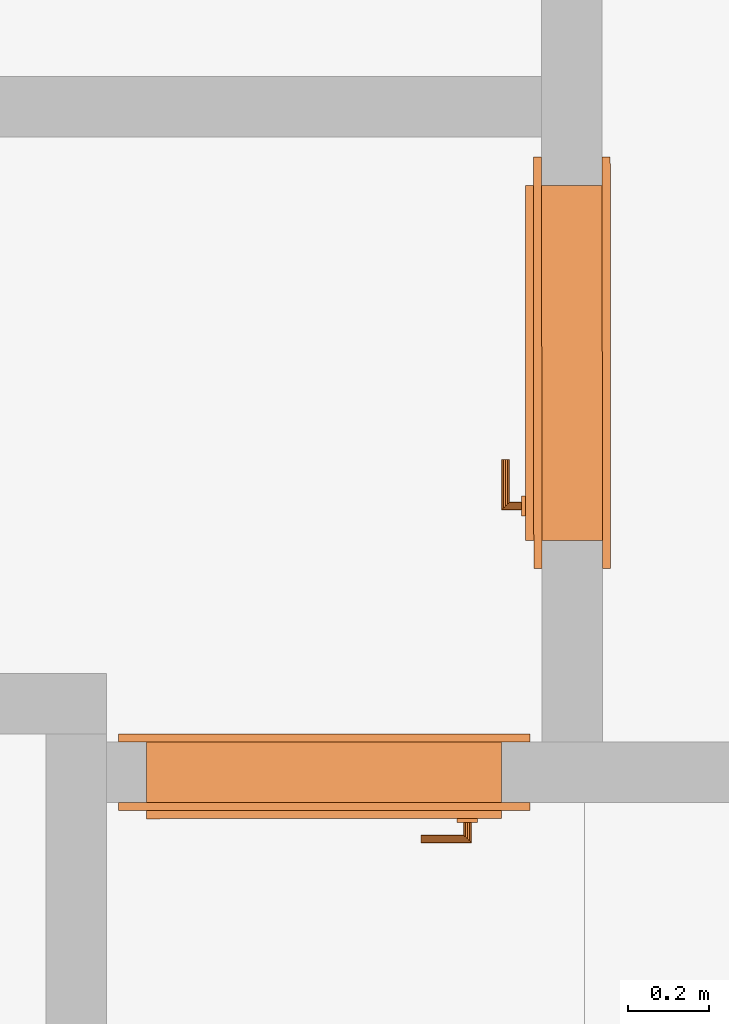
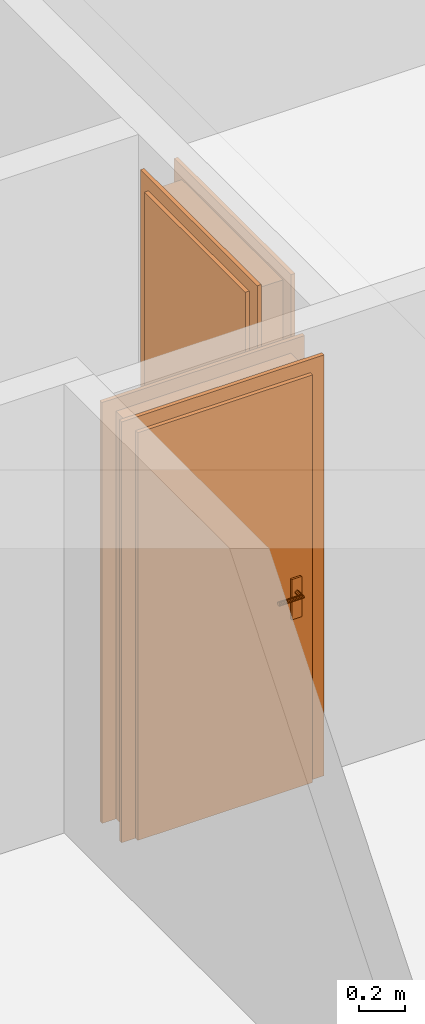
# One storey, part 7 of 9: 2 proxies.
"""IFC2X3 building model written with IfcOpenShell, lengths in metres."""

from ifc_helpers import new_model, entity, si_unit, converted_unit, derived_unit, direction, frame, origin, origin_with_axes, place, context, subcontext, project, spatial, faceted_brep, source, transform, mapped, element, save


model = new_model("IFC2X3")

# Units and contexts
model_context = context("Model", 3, precision=1e-05, world=origin(), true_north=direction((0.772621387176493, -0.634867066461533)))
body_context = subcontext(model_context, "Body", "Model", "MODEL_VIEW")
ifc_project = project(units=[si_unit("LENGTHUNIT", "METRE"), si_unit("AREAUNIT", "SQUARE_METRE"), si_unit("VOLUMEUNIT", "CUBIC_METRE"), si_unit("MASSUNIT", "GRAM", prefix="KILO"), converted_unit("PLANEANGLEUNIT", "DEGREE", entity("IfcPlaneAngleMeasure", 0.0174532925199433), si_unit("PLANEANGLEUNIT", "RADIAN"), dimensions=[0, 0, 0, 0, 0, 0, 0]), derived_unit("THERMALTRANSMITTANCEUNIT", [(si_unit("POWERUNIT", "WATT"), 1), (si_unit("THERMODYNAMICTEMPERATUREUNIT", "KELVIN"), -1), (si_unit("LENGTHUNIT", "METRE"), -2)]), derived_unit("VOLUMETRICFLOWRATEUNIT", [(si_unit("LENGTHUNIT", "METRE"), 3), (converted_unit("TIMEUNIT", "hour", entity("IfcTimeMeasure", 3600.0), si_unit("TIMEUNIT", "SECOND"), dimensions=[0, 0, 1, 0, 0, 0, 0]), -1), (si_unit("LENGTHUNIT", "METRE"), -1)])], contexts=[model_context])

# Site, building, storey
site_placement = place(None, origin())
site = spatial("IfcSite", under=ifc_project, at=site_placement, Name="Modelle auf dem Nullpunkt", CompositionType="ELEMENT")
building_placement = place(site_placement, origin())
building = spatial("IfcBuilding", under=site, at=building_placement, Name="I", CompositionType="ELEMENT")
storey_placement = place(building_placement, origin())
storey = spatial("IfcBuildingStorey", under=building, at=storey_placement, Name="UG", CompositionType="ELEMENT", Elevation=0.0)

# Proxies
shared_shape_1 = source(origin_with_axes(), body_context, "Body", "Brep", [
    faceted_brep([(0.070000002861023, 0.190000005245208, 2.17), (0.070000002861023, 0.190000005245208, 0.0), (0.0900000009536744, 0.190000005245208, 0.0), (0.0900000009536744, 0.190000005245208, 2.17), (0.070000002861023, 0.0, 0.0), (0.070000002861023, 0.0, 2.17), (0.0900000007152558, 0.0, 2.17), (0.0900000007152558, 0.0, 0.0)], [[[0, 1, 2, 3]], [[4, 5, 6, 7]], [[1, 0, 5, 4]], [[2, 1, 4, 7]], [[3, 2, 7, 6]], [[0, 3, 6, 5]]], orient=[[False], [False], [False], [False], [False], [False]]),
    faceted_brep([(0.070000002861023, 0.190000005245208, 2.24), (0.0, 0.190000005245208, 2.24), (0.0, 0.190000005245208, 0.0), (0.070000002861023, 0.190000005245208, 0.0), (0.070000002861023, 0.170000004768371, 0.0), (0.0, 0.170000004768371, 0.0), (0.0, 0.170000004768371, 2.24), (0.070000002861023, 0.170000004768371, 2.24)], [[[0, 1, 2, 3]], [[4, 5, 6, 7]], [[3, 4, 7, 0]], [[2, 5, 4, 3]], [[1, 6, 5, 2]], [[0, 7, 6, 1]]], orient=[[False], [False], [False], [False], [False], [False]]),
    faceted_brep([(0.070000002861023, 0.0200000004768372, 2.24), (0.0, 0.0200000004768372, 2.24), (0.0, 0.0200000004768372, 0.0), (0.070000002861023, 0.0200000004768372, 0.0), (0.070000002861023, 0.0, 0.0), (0.0, 0.0, 0.0), (0.0, 0.0, 2.24), (0.070000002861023, 0.0, 2.24)], [[[0, 1, 2, 3]], [[4, 5, 6, 7]], [[3, 4, 7, 0]], [[2, 5, 4, 3]], [[1, 6, 5, 2]], [[0, 7, 6, 1]]], orient=[[False], [False], [False], [False], [False], [False]]),
    faceted_brep([(0.930000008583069, 0.190000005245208, 2.17), (0.930000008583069, 0.190000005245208, 0.0), (0.950000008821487, 0.190000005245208, 0.0), (0.950000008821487, 0.190000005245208, 2.17), (0.930000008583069, 0.0, 0.0), (0.930000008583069, 0.0, 2.17), (0.950000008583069, 0.0, 2.17), (0.950000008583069, 0.0, 0.0)], [[[0, 1, 2, 3]], [[4, 5, 6, 7]], [[1, 0, 5, 4]], [[2, 1, 4, 7]], [[3, 2, 7, 6]], [[0, 3, 6, 5]]], orient=[[False], [False], [False], [False], [False], [False]]),
    faceted_brep([(0.950000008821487, 0.190000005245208, 2.24), (0.950000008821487, 0.190000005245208, 0.0), (1.02000000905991, 0.190000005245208, 0.0), (1.02000000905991, 0.190000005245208, 2.24), (0.950000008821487, 0.170000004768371, 0.0), (0.950000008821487, 0.170000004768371, 2.24), (1.02000000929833, 0.170000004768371, 2.24), (1.02000000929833, 0.170000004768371, 0.0)], [[[0, 1, 2, 3]], [[4, 5, 6, 7]], [[1, 0, 5, 4]], [[2, 1, 4, 7]], [[3, 2, 7, 6]], [[0, 3, 6, 5]]], orient=[[False], [False], [False], [False], [False], [False]]),
    faceted_brep([(0.950000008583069, 0.0200000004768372, 2.24), (0.950000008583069, 0.0200000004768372, 0.0), (1.02000000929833, 0.0200000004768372, 0.0), (1.02000000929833, 0.0200000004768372, 2.24), (0.950000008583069, 0.0, 0.0), (0.950000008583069, 0.0, 2.24), (1.02000000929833, 0.0, 2.24), (1.02000000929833, 0.0, 0.0)], [[[0, 1, 2, 3]], [[4, 5, 6, 7]], [[1, 0, 5, 4]], [[2, 1, 4, 7]], [[3, 2, 7, 6]], [[0, 3, 6, 5]]], orient=[[False], [False], [False], [False], [False], [False]]),
    faceted_brep([(0.0900000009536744, 0.190000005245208, 2.17), (0.0900000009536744, 0.190000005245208, 2.15), (0.930000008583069, 0.190000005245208, 2.15), (0.930000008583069, 0.190000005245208, 2.17), (0.0900000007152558, 0.0, 2.15), (0.0900000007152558, 0.0, 2.17), (0.930000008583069, 0.0, 2.17), (0.930000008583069, 0.0, 2.15)], [[[0, 1, 2, 3]], [[4, 5, 6, 7]], [[1, 0, 5, 4]], [[2, 1, 4, 7]], [[3, 2, 7, 6]], [[0, 3, 6, 5]]], orient=[[False], [False], [False], [False], [False], [False]]),
    faceted_brep([(0.070000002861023, 0.190000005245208, 2.24), (0.070000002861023, 0.190000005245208, 2.17), (0.950000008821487, 0.190000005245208, 2.17), (0.950000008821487, 0.190000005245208, 2.24), (0.070000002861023, 0.170000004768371, 2.17), (0.070000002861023, 0.170000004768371, 2.24), (0.950000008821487, 0.170000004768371, 2.24), (0.950000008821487, 0.170000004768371, 2.17)], [[[0, 1, 2, 3]], [[4, 5, 6, 7]], [[1, 0, 5, 4]], [[2, 1, 4, 7]], [[3, 2, 7, 6]], [[0, 3, 6, 5]]], orient=[[False], [False], [False], [False], [False], [False]]),
    faceted_brep([(0.070000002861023, 0.0200000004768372, 2.24), (0.070000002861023, 0.0200000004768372, 2.17), (0.950000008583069, 0.0200000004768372, 2.17), (0.950000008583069, 0.0200000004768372, 2.24), (0.070000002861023, 0.0, 2.17), (0.070000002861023, 0.0, 2.24), (0.950000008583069, 0.0, 2.24), (0.950000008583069, 0.0, 2.17)], [[[0, 1, 2, 3]], [[4, 5, 6, 7]], [[1, 0, 5, 4]], [[2, 1, 4, 7]], [[3, 2, 7, 6]], [[0, 3, 6, 5]]], orient=[[False], [False], [False], [False], [False], [False]]),
    faceted_brep([(0.070000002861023, 0.210000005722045, 2.17), (0.070000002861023, 0.210000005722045, 0.0), (0.950000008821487, 0.210000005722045, 0.0), (0.950000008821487, 0.210000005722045, 2.17), (0.070000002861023, 0.170000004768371, 0.0), (0.070000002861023, 0.170000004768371, 2.17), (0.950000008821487, 0.170000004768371, 2.17), (0.950000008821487, 0.170000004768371, 0.0)], [[[0, 1, 2, 3]], [[4, 5, 6, 7]], [[1, 0, 5, 4]], [[2, 1, 4, 7]], [[3, 2, 7, 6]], [[0, 3, 6, 5]]], orient=[[False], [False], [False], [False], [False], [False]]),
    faceted_brep([(0.130000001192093, 0.170000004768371, 1.125), (0.130000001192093, 0.170000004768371, 0.91), (0.180000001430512, 0.170000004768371, 0.91), (0.180000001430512, 0.170000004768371, 1.125), (0.130000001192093, 0.160000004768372, 0.91), (0.130000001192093, 0.160000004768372, 1.125), (0.180000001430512, 0.160000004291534, 1.125), (0.180000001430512, 0.160000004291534, 0.91)], [[[0, 1, 2, 3]], [[4, 5, 6, 7]], [[1, 0, 5, 4]], [[2, 1, 4, 7]], [[3, 2, 7, 6]], [[0, 3, 6, 5]]], orient=[[False], [False], [False], [False], [False], [False]]),
    faceted_brep([(0.155000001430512, 0.160000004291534, 1.06), (0.150000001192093, 0.160000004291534, 1.05866025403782), (0.146339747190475, 0.160000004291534, 1.055), (0.145000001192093, 0.160000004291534, 1.05), (0.146339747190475, 0.160000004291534, 1.045), (0.150000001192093, 0.160000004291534, 1.04133974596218), (0.155000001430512, 0.160000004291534, 1.04), (0.160000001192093, 0.160000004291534, 1.04133974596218), (0.16366025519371, 0.160000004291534, 1.045), (0.165000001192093, 0.160000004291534, 1.05), (0.16366025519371, 0.160000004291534, 1.055), (0.160000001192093, 0.160000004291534, 1.05866025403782), (0.155000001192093, 0.120000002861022, 1.06), (0.150000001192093, 0.115000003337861, 1.05866025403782), (0.146339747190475, 0.111339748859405, 1.055), (0.145000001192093, 0.110000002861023, 1.05), (0.146339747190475, 0.111339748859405, 1.045), (0.150000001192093, 0.115000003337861, 1.04133974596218), (0.155000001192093, 0.120000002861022, 1.04), (0.160000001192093, 0.125000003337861, 1.04133974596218), (0.163660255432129, 0.128660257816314, 1.045), (0.165000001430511, 0.130000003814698, 1.05), (0.163660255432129, 0.128660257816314, 1.055), (0.160000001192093, 0.125000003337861, 1.05866025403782), (0.270000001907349, 0.120000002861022, 1.06), (0.270000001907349, 0.125000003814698, 1.05866025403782), (0.27000000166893, 0.128660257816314, 1.055), (0.270000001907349, 0.130000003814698, 1.05), (0.27000000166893, 0.128660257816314, 1.045), (0.270000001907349, 0.125000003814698, 1.04133974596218), (0.270000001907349, 0.120000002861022, 1.04), (0.270000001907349, 0.115000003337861, 1.04133974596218), (0.270000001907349, 0.111339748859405, 1.045), (0.270000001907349, 0.110000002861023, 1.05), (0.270000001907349, 0.111339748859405, 1.055), (0.270000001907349, 0.115000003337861, 1.05866025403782)], [[[0, 1, 2, 3, 4, 5, 6, 7, 8, 9, 10, 11]], [[0, 12, 13, 1]], [[1, 13, 14, 2]], [[2, 14, 15, 3]], [[3, 15, 16, 4]], [[4, 16, 17, 5]], [[5, 17, 18, 6]], [[6, 18, 19, 7]], [[7, 19, 20, 8]], [[8, 20, 21, 9]], [[9, 21, 22, 10]], [[10, 22, 23, 11]], [[11, 23, 12, 0]], [[24, 25, 26, 27, 28, 29, 30, 31, 32, 33, 34, 35]], [[12, 24, 35, 13]], [[13, 35, 34, 14]], [[14, 34, 33, 15]], [[15, 33, 32, 16]], [[16, 32, 31, 17]], [[17, 31, 30, 18]], [[18, 30, 29, 19]], [[19, 29, 28, 20]], [[20, 28, 27, 21]], [[21, 27, 26, 22]], [[22, 26, 25, 23]], [[23, 25, 24, 12]]], orient=[[False], [False], [False], [False], [False], [False], [False], [False], [False], [False], [False], [False], [False], [False], [False], [False], [False], [False], [False], [False], [False], [False], [False], [False], [False], [False]]),
    faceted_brep([(0.130000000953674, 0.210000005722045, 1.125), (0.180000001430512, 0.210000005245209, 1.125), (0.180000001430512, 0.210000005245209, 0.91), (0.130000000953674, 0.210000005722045, 0.91), (0.130000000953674, 0.220000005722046, 0.91), (0.180000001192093, 0.220000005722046, 0.91), (0.180000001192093, 0.220000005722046, 1.125), (0.130000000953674, 0.220000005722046, 1.125)], [[[0, 1, 2, 3]], [[4, 5, 6, 7]], [[3, 4, 7, 0]], [[2, 5, 4, 3]], [[1, 6, 5, 2]], [[0, 7, 6, 1]]], orient=[[False], [False], [False], [False], [False], [False]]),
    faceted_brep([(0.155000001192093, 0.220000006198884, 1.06), (0.160000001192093, 0.220000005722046, 1.05866025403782), (0.16366025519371, 0.220000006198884, 1.055), (0.165000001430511, 0.220000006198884, 1.05), (0.16366025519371, 0.220000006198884, 1.045), (0.160000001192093, 0.220000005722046, 1.04133974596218), (0.155000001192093, 0.220000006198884, 1.04), (0.150000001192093, 0.220000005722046, 1.04133974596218), (0.146339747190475, 0.220000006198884, 1.045), (0.145000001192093, 0.220000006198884, 1.05), (0.146339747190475, 0.220000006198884, 1.055), (0.150000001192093, 0.220000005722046, 1.05866025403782), (0.150000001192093, 0.265000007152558, 1.05866025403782), (0.155000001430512, 0.260000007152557, 1.06), (0.146339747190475, 0.268660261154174, 1.055), (0.145000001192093, 0.270000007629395, 1.05), (0.146339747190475, 0.268660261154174, 1.045), (0.150000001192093, 0.265000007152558, 1.04133974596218), (0.155000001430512, 0.260000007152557, 1.04), (0.160000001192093, 0.255000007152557, 1.04133974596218), (0.16366025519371, 0.251339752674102, 1.045), (0.165000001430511, 0.25000000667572, 1.05), (0.16366025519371, 0.251339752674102, 1.055), (0.160000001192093, 0.255000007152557, 1.05866025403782), (0.270000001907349, 0.260000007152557, 1.06), (0.270000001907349, 0.265000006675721, 1.05866025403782), (0.270000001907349, 0.268660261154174, 1.055), (0.270000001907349, 0.270000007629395, 1.05), (0.270000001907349, 0.268660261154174, 1.045), (0.270000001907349, 0.265000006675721, 1.04133974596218), (0.270000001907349, 0.260000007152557, 1.04), (0.270000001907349, 0.255000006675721, 1.04133974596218), (0.270000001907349, 0.251339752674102, 1.045), (0.270000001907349, 0.25000000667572, 1.05), (0.270000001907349, 0.251339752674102, 1.055), (0.270000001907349, 0.255000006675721, 1.05866025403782)], [[[0, 1, 2, 3, 4, 5, 6, 7, 8, 9, 10, 11]], [[0, 11, 12, 13]], [[11, 10, 14, 12]], [[10, 9, 15, 14]], [[9, 8, 16, 15]], [[8, 7, 17, 16]], [[7, 6, 18, 17]], [[6, 5, 19, 18]], [[5, 4, 20, 19]], [[4, 3, 21, 20]], [[3, 2, 22, 21]], [[2, 1, 23, 22]], [[1, 0, 13, 23]], [[24, 25, 26, 27, 28, 29, 30, 31, 32, 33, 34, 35]], [[13, 12, 25, 24]], [[12, 14, 26, 25]], [[14, 15, 27, 26]], [[15, 16, 28, 27]], [[16, 17, 29, 28]], [[17, 18, 30, 29]], [[18, 19, 31, 30]], [[19, 20, 32, 31]], [[20, 21, 33, 32]], [[21, 22, 34, 33]], [[22, 23, 35, 34]], [[23, 13, 24, 35]]], orient=[[False], [False], [False], [False], [False], [False], [False], [False], [False], [False], [False], [False], [False], [False], [False], [False], [False], [False], [False], [False], [False], [False], [False], [False], [False], [False]]),
])
proxy_1_placement = place(storey_placement, frame((41.0933821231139, -1.91924109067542, 433.22), z_axis=(0.0, 0.0, 1.0), x_axis=(-0.000353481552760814, 0.999999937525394, 0.0)))
element("IfcBuildingElementProxy", 1, at=proxy_1_placement, inside=storey, Name="1flg Weiß UZ außen", context=body_context, shape_type="MappedRepresentation", body=[
    mapped(shared_shape_1, transform((0.0, 0.0, 0.0), x_axis=(1.0, 0.0, 0.0), y_axis=(0.0, 1.0, 0.0), z_axis=(0.0, 0.0, 1.0), scale=1.0)),
])
shared_shape_2 = source(origin_with_axes(), body_context, "Body", "Brep", [
    faceted_brep([(0.0700000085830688, 0.190000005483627, 2.17), (0.0700000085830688, 0.190000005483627, 0.0), (0.0900000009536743, 0.190000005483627, 0.0), (0.0900000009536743, 0.190000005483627, 2.17), (0.0700000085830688, 0.0, 0.0), (0.0700000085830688, 0.0, 2.17), (0.0900000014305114, 0.0, 2.17), (0.0900000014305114, 0.0, 0.0)], [[[0, 1, 2, 3]], [[4, 5, 6, 7]], [[1, 0, 5, 4]], [[2, 1, 4, 7]], [[3, 2, 7, 6]], [[0, 3, 6, 5]]], orient=[[False], [False], [False], [False], [False], [False]]),
    faceted_brep([(0.0700000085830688, 0.190000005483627, 2.24), (0.0, 0.190000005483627, 2.24), (0.0, 0.190000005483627, 0.0), (0.0700000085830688, 0.190000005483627, 0.0), (0.0700000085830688, 0.17000000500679, 0.0), (0.0, 0.17000000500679, 0.0), (0.0, 0.17000000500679, 2.24), (0.0700000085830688, 0.17000000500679, 2.24)], [[[0, 1, 2, 3]], [[4, 5, 6, 7]], [[3, 4, 7, 0]], [[2, 5, 4, 3]], [[1, 6, 5, 2]], [[0, 7, 6, 1]]], orient=[[False], [False], [False], [False], [False], [False]]),
    faceted_brep([(0.0700000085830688, 0.0200000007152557, 2.24), (0.0, 0.0200000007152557, 2.24), (0.0, 0.0200000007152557, 0.0), (0.0700000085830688, 0.0200000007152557, 0.0), (0.0700000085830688, 0.0, 0.0), (0.0, 0.0, 0.0), (0.0, 0.0, 2.24), (0.0700000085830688, 0.0, 2.24)], [[[0, 1, 2, 3]], [[4, 5, 6, 7]], [[3, 4, 7, 0]], [[2, 5, 4, 3]], [[1, 6, 5, 2]], [[0, 7, 6, 1]]], orient=[[False], [False], [False], [False], [False], [False]]),
    faceted_brep([(0.930000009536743, 0.190000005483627, 2.17), (0.930000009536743, 0.190000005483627, 0.0), (0.950000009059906, 0.190000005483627, 0.0), (0.950000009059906, 0.190000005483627, 2.17), (0.930000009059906, 0.0, 0.0), (0.930000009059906, 0.0, 2.17), (0.950000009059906, 0.0, 2.17), (0.950000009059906, 0.0, 0.0)], [[[0, 1, 2, 3]], [[4, 5, 6, 7]], [[1, 0, 5, 4]], [[2, 1, 4, 7]], [[3, 2, 7, 6]], [[0, 3, 6, 5]]], orient=[[False], [False], [False], [False], [False], [False]]),
    faceted_brep([(0.950000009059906, 0.190000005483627, 2.24), (0.950000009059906, 0.190000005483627, 0.0), (1.02000000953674, 0.190000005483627, 0.0), (1.02000000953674, 0.190000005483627, 2.24), (0.950000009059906, 0.17000000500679, 0.0), (0.950000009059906, 0.17000000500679, 2.24), (1.02000000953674, 0.17000000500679, 2.24), (1.02000000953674, 0.17000000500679, 0.0)], [[[0, 1, 2, 3]], [[4, 5, 6, 7]], [[1, 0, 5, 4]], [[2, 1, 4, 7]], [[3, 2, 7, 6]], [[0, 3, 6, 5]]], orient=[[False], [False], [False], [False], [False], [False]]),
    faceted_brep([(0.950000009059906, 0.0200000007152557, 2.24), (0.950000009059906, 0.0200000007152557, 0.0), (1.02000001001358, 0.0200000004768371, 0.0), (1.02000001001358, 0.0200000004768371, 2.24), (0.950000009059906, 0.0, 0.0), (0.950000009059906, 0.0, 2.24), (1.02000001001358, 0.0, 2.24), (1.02000001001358, 0.0, 0.0)], [[[0, 1, 2, 3]], [[4, 5, 6, 7]], [[1, 0, 5, 4]], [[2, 1, 4, 7]], [[3, 2, 7, 6]], [[0, 3, 6, 5]]], orient=[[False], [False], [False], [False], [False], [False]]),
    faceted_brep([(0.0900000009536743, 0.190000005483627, 2.17), (0.0900000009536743, 0.190000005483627, 2.15), (0.930000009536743, 0.190000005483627, 2.15), (0.930000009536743, 0.190000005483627, 2.17), (0.0900000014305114, 0.0, 2.15), (0.0900000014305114, 0.0, 2.17), (0.930000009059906, 0.0, 2.17), (0.930000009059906, 0.0, 2.15)], [[[0, 1, 2, 3]], [[4, 5, 6, 7]], [[1, 0, 5, 4]], [[2, 1, 4, 7]], [[3, 2, 7, 6]], [[0, 3, 6, 5]]], orient=[[False], [False], [False], [False], [False], [False]]),
    faceted_brep([(0.0700000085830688, 0.190000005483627, 2.24), (0.0700000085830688, 0.190000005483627, 2.17), (0.950000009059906, 0.190000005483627, 2.17), (0.950000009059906, 0.190000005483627, 2.24), (0.0700000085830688, 0.17000000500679, 2.17), (0.0700000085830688, 0.17000000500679, 2.24), (0.950000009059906, 0.17000000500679, 2.24), (0.950000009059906, 0.17000000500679, 2.17)], [[[0, 1, 2, 3]], [[4, 5, 6, 7]], [[1, 0, 5, 4]], [[2, 1, 4, 7]], [[3, 2, 7, 6]], [[0, 3, 6, 5]]], orient=[[False], [False], [False], [False], [False], [False]]),
    faceted_brep([(0.0700000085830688, 0.0200000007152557, 2.24), (0.0700000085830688, 0.0200000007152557, 2.17), (0.950000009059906, 0.0200000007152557, 2.17), (0.950000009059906, 0.0200000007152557, 2.24), (0.0700000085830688, 0.0, 2.17), (0.0700000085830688, 0.0, 2.24), (0.950000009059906, 0.0, 2.24), (0.950000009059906, 0.0, 2.17)], [[[0, 1, 2, 3]], [[4, 5, 6, 7]], [[1, 0, 5, 4]], [[2, 1, 4, 7]], [[3, 2, 7, 6]], [[0, 3, 6, 5]]], orient=[[False], [False], [False], [False], [False], [False]]),
    faceted_brep([(0.0700000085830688, 0.210000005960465, 2.17), (0.0700000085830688, 0.210000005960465, 0.0), (0.950000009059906, 0.210000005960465, 0.0), (0.950000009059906, 0.210000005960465, 2.17), (0.0700000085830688, 0.17000000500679, 0.0), (0.0700000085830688, 0.17000000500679, 2.17), (0.950000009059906, 0.17000000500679, 2.17), (0.950000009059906, 0.17000000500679, 0.0)], [[[0, 1, 2, 3]], [[4, 5, 6, 7]], [[1, 0, 5, 4]], [[2, 1, 4, 7]], [[3, 2, 7, 6]], [[0, 3, 6, 5]]], orient=[[False], [False], [False], [False], [False], [False]]),
    faceted_brep([(0.130000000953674, 0.17000000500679, 1.125), (0.130000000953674, 0.17000000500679, 0.91), (0.180000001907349, 0.170000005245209, 0.91), (0.180000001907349, 0.170000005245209, 1.125), (0.130000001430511, 0.160000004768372, 0.91), (0.130000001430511, 0.160000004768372, 1.125), (0.180000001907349, 0.160000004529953, 1.125), (0.180000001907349, 0.160000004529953, 0.91)], [[[0, 1, 2, 3]], [[4, 5, 6, 7]], [[1, 0, 5, 4]], [[2, 1, 4, 7]], [[3, 2, 7, 6]], [[0, 3, 6, 5]]], orient=[[False], [False], [False], [False], [False], [False]]),
    faceted_brep([(0.155000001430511, 0.160000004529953, 1.06), (0.150000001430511, 0.160000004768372, 1.05866025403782), (0.146339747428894, 0.160000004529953, 1.055), (0.145000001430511, 0.160000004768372, 1.05), (0.146339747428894, 0.160000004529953, 1.045), (0.150000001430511, 0.160000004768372, 1.04133974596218), (0.155000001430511, 0.160000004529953, 1.04), (0.160000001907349, 0.160000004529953, 1.04133974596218), (0.163660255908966, 0.160000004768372, 1.045), (0.165000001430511, 0.160000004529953, 1.05), (0.163660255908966, 0.160000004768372, 1.055), (0.160000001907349, 0.160000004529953, 1.05866025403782), (0.155000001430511, 0.120000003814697, 1.06), (0.150000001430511, 0.11500000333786, 1.05866025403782), (0.146339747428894, 0.111339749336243, 1.055), (0.145000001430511, 0.110000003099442, 1.05), (0.146339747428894, 0.111339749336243, 1.045), (0.150000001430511, 0.11500000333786, 1.04133974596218), (0.155000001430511, 0.120000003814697, 1.04), (0.160000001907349, 0.125000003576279, 1.04133974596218), (0.163660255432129, 0.128660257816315, 1.045), (0.165000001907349, 0.130000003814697, 1.05), (0.163660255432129, 0.128660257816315, 1.055), (0.160000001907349, 0.125000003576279, 1.05866025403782), (0.270000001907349, 0.120000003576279, 1.06), (0.270000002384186, 0.125000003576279, 1.05866025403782), (0.270000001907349, 0.128660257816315, 1.055), (0.270000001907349, 0.130000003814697, 1.05), (0.270000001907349, 0.128660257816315, 1.045), (0.270000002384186, 0.125000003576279, 1.04133974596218), (0.270000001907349, 0.120000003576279, 1.04), (0.270000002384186, 0.11500000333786, 1.04133974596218), (0.270000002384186, 0.111339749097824, 1.045), (0.270000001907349, 0.11000000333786, 1.05), (0.270000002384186, 0.111339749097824, 1.055), (0.270000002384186, 0.11500000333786, 1.05866025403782)], [[[0, 1, 2, 3, 4, 5, 6, 7, 8, 9, 10, 11]], [[0, 12, 13, 1]], [[1, 13, 14, 2]], [[2, 14, 15, 3]], [[3, 15, 16, 4]], [[4, 16, 17, 5]], [[5, 17, 18, 6]], [[6, 18, 19, 7]], [[7, 19, 20, 8]], [[8, 20, 21, 9]], [[9, 21, 22, 10]], [[10, 22, 23, 11]], [[11, 23, 12, 0]], [[24, 25, 26, 27, 28, 29, 30, 31, 32, 33, 34, 35]], [[12, 24, 35, 13]], [[13, 35, 34, 14]], [[14, 34, 33, 15]], [[15, 33, 32, 16]], [[16, 32, 31, 17]], [[17, 31, 30, 18]], [[18, 30, 29, 19]], [[19, 29, 28, 20]], [[20, 28, 27, 21]], [[21, 27, 26, 22]], [[22, 26, 25, 23]], [[23, 25, 24, 12]]], orient=[[False], [False], [False], [False], [False], [False], [False], [False], [False], [False], [False], [False], [False], [False], [False], [False], [False], [False], [False], [False], [False], [False], [False], [False], [False], [False]]),
    faceted_brep([(0.130000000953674, 0.210000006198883, 1.125), (0.180000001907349, 0.210000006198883, 1.125), (0.180000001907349, 0.210000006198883, 0.91), (0.130000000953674, 0.210000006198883, 0.91), (0.130000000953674, 0.220000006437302, 0.91), (0.180000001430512, 0.22000000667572, 0.91), (0.180000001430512, 0.22000000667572, 1.125), (0.130000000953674, 0.220000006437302, 1.125)], [[[0, 1, 2, 3]], [[4, 5, 6, 7]], [[3, 4, 7, 0]], [[2, 5, 4, 3]], [[1, 6, 5, 2]], [[0, 7, 6, 1]]], orient=[[False], [False], [False], [False], [False], [False]]),
    faceted_brep([(0.155000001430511, 0.220000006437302, 1.06), (0.160000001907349, 0.220000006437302, 1.05866025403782), (0.163660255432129, 0.220000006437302, 1.055), (0.165000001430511, 0.22000000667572, 1.05), (0.163660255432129, 0.220000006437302, 1.045), (0.160000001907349, 0.220000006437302, 1.04133974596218), (0.155000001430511, 0.220000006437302, 1.04), (0.150000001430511, 0.220000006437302, 1.04133974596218), (0.146339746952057, 0.22000000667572, 1.045), (0.145000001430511, 0.220000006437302, 1.05), (0.146339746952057, 0.22000000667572, 1.055), (0.150000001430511, 0.220000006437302, 1.05866025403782), (0.150000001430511, 0.265000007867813, 1.05866025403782), (0.155000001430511, 0.260000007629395, 1.06), (0.146339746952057, 0.268660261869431, 1.055), (0.145000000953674, 0.270000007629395, 1.05), (0.146339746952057, 0.268660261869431, 1.045), (0.150000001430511, 0.265000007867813, 1.04133974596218), (0.155000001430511, 0.260000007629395, 1.04), (0.160000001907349, 0.255000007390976, 1.04133974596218), (0.163660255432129, 0.251339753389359, 1.045), (0.165000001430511, 0.250000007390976, 1.05), (0.163660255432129, 0.251339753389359, 1.055), (0.160000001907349, 0.255000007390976, 1.05866025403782), (0.270000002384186, 0.260000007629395, 1.06), (0.270000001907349, 0.265000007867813, 1.05866025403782), (0.270000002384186, 0.268660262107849, 1.055), (0.270000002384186, 0.270000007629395, 1.05), (0.270000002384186, 0.268660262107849, 1.045), (0.270000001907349, 0.265000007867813, 1.04133974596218), (0.270000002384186, 0.260000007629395, 1.04), (0.270000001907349, 0.255000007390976, 1.04133974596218), (0.270000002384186, 0.251339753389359, 1.045), (0.270000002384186, 0.250000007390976, 1.05), (0.270000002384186, 0.251339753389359, 1.055), (0.270000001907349, 0.255000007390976, 1.05866025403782)], [[[0, 1, 2, 3, 4, 5, 6, 7, 8, 9, 10, 11]], [[0, 11, 12, 13]], [[11, 10, 14, 12]], [[10, 9, 15, 14]], [[9, 8, 16, 15]], [[8, 7, 17, 16]], [[7, 6, 18, 17]], [[6, 5, 19, 18]], [[5, 4, 20, 19]], [[4, 3, 21, 20]], [[3, 2, 22, 21]], [[2, 1, 23, 22]], [[1, 0, 13, 23]], [[24, 25, 26, 27, 28, 29, 30, 31, 32, 33, 34, 35]], [[13, 12, 25, 24]], [[12, 14, 26, 25]], [[14, 15, 27, 26]], [[15, 16, 28, 27]], [[16, 17, 29, 28]], [[17, 18, 30, 29]], [[18, 19, 31, 30]], [[19, 20, 32, 31]], [[20, 21, 33, 32]], [[21, 22, 34, 33]], [[22, 23, 35, 34]], [[23, 13, 24, 35]]], orient=[[False], [False], [False], [False], [False], [False], [False], [False], [False], [False], [False], [False], [False], [False], [False], [False], [False], [False], [False], [False], [False], [False], [False], [False], [False], [False]]),
])
proxy_2_placement = place(storey_placement, frame((40.8935270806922, -2.32931174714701, 433.22), z_axis=(0.0, 0.0, 1.0), x_axis=(-0.999999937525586, -0.000353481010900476, 0.0)))
element("IfcBuildingElementProxy", 2, at=proxy_2_placement, inside=storey, Name="1flg Weiß UZ außen", context=body_context, shape_type="MappedRepresentation", body=[
    mapped(shared_shape_2, transform((0.0, 0.0, 0.0), x_axis=(1.0, 0.0, 0.0), y_axis=(0.0, 1.0, 0.0), z_axis=(0.0, 0.0, 1.0), scale=1.0)),
])

save(model, "model.ifc")
